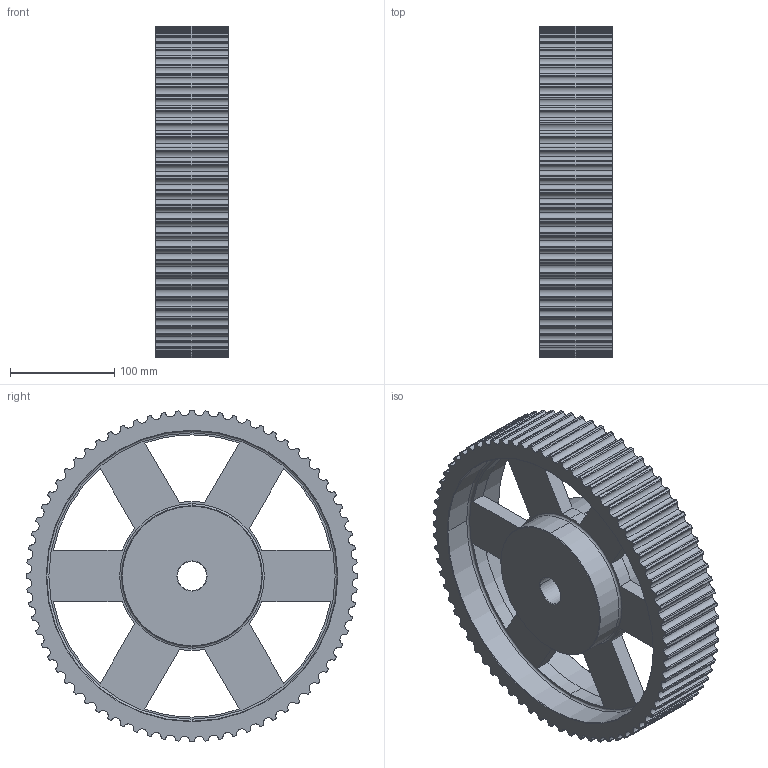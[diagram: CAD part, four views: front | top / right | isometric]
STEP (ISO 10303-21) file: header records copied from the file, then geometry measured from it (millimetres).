
FILE_DESCRIPTION(('STEP AP203'),'1');
FILE_NAME('72_-_14_m_55.stp','2021-09-17T09:22:58',('TraceParts'),('TraceParts S.A.'),'Spatial InterOp 3D',' ',' ');
FILE_SCHEMA(('CONFIG_CONTROL_DESIGN'));
Length unit declared in the file: millimetre
Products named in the file (1): 1
Bounding box: 70 x 318.06 x 318.06 mm (x, y, z)
Volume: 2397263 mm3; surface area: 297404 mm2
Topology: 1 solids, 1 shells, 424 faces, 1242 edges, 824 vertices
Faces by surface type: cylinder 386, plane 18, cone 12, torus 8
Entity records: 14630 total; most frequent: DIRECTION 2900, CARTESIAN_POINT 2491, ORIENTED_EDGE 2484, EDGE_CURVE 1242, AXIS2_PLACEMENT_3D 1233, VERTEX_POINT 824, CIRCLE 808, EDGE_LOOP 442
